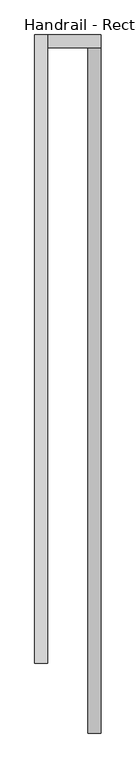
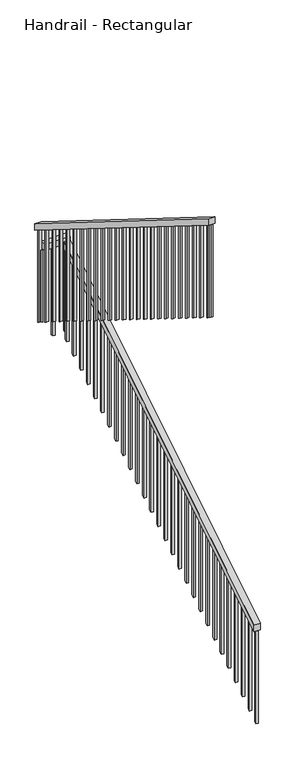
"""IFC4 building model written with IfcOpenShell, lengths in millimetres: railing geometry, Handrail - Rectangular."""

from ifc_helpers import new_model, si_unit, frame, origin, place, context, project, spatial, polyline, outline, extrude, source, transform, mapped, element, save


def handrail_rectangular_dc8e77f5(model_context):
    return source(origin(), model_context, "Body", "SweptSolid", [
        extrude(outline(polyline([(3822.2975872, 1028.7093152), (3822.2975872, 1088.5714286), (6565.4975872, 2798.6181818), (6565.4975872, 2738.7560685), (3822.2975872, 1028.7093152)])), frame((-10599.6769643, 0.0, 0.0), z_axis=(1.0, 0.0, 0.0), x_axis=(0.0, 1.0, 0.0)), (0.0, 0.0, 1.0), 50.8),
        extrude(outline(polyline([(-10548.8769643, 6616.2975872), (-10548.8769643, 6565.4975872), (-10763.3058351, 6565.4975872), (-10763.3058351, 6616.2975872), (-10548.8769643, 6616.2975872)])), frame((0.0, 0.0, 2779.4857143), z_axis=(0.0, 0.0, 1.0), x_axis=(1.0, 0.0, 0.0)), (0.0, 0.0, 1.0), 50.8),
        extrude(outline(polyline([(6616.2975872, 3004.4571429), (6616.2975872, 2944.5950295), (4101.6975872, 4512.1378867), (4101.6975872, 4572.0), (6616.2975872, 3004.4571429)])), frame((-10814.1058351, 0.0, 0.0), z_axis=(1.0, 0.0, 0.0), x_axis=(0.0, 1.0, 0.0)), (0.0, 0.0, 1.0), 50.8),
        extrude(outline(polyline([(4162.0225872, 4474.5326919), (4162.0225872, 3659.5762072), (4142.9725872, 3671.4515318), (4142.9725872, 4486.4080165), (4162.0225872, 4474.5326919)])), frame((-10798.2308351, 0.0, 0.0), z_axis=(1.0, 0.0, 0.0), x_axis=(0.0, 1.0, 0.0)), (0.0, 0.0, 1.0), 19.05),
        extrude(outline(polyline([(4263.6225872, 4411.1976269), (4263.6225872, 3596.2411422), (4244.5725872, 3608.1164669), (4244.5725872, 4423.0729516), (4263.6225872, 4411.1976269)])), frame((-10798.2308351, 0.0, 0.0), z_axis=(1.0, 0.0, 0.0), x_axis=(0.0, 1.0, 0.0)), (0.0, 0.0, 1.0), 19.05),
        extrude(outline(polyline([(4365.2225872, 4347.862562), (4365.2225872, 3532.9060773), (4346.1725872, 3544.781402), (4346.1725872, 4359.7378867), (4365.2225872, 4347.862562)])), frame((-10798.2308351, 0.0, 0.0), z_axis=(1.0, 0.0, 0.0), x_axis=(0.0, 1.0, 0.0)), (0.0, 0.0, 1.0), 19.05),
        extrude(outline(polyline([(4466.8225872, 4284.5274971), (4466.8225872, 3469.5710124), (4447.7725872, 3481.446337), (4447.7725872, 4296.4028217), (4466.8225872, 4284.5274971)])), frame((-10798.2308351, 0.0, 0.0), z_axis=(1.0, 0.0, 0.0), x_axis=(0.0, 1.0, 0.0)), (0.0, 0.0, 1.0), 19.05),
        extrude(outline(polyline([(4568.4225872, 4221.1924321), (4568.4225872, 3406.2359474), (4549.3725872, 3418.1112721), (4549.3725872, 4233.0677568), (4568.4225872, 4221.1924321)])), frame((-10798.2308351, 0.0, 0.0), z_axis=(1.0, 0.0, 0.0), x_axis=(0.0, 1.0, 0.0)), (0.0, 0.0, 1.0), 19.05),
        extrude(outline(polyline([(4670.0225872, 4157.8573672), (4670.0225872, 3342.9008825), (4650.9725872, 3354.7762072), (4650.9725872, 4169.7326919), (4670.0225872, 4157.8573672)])), frame((-10798.2308351, 0.0, 0.0), z_axis=(1.0, 0.0, 0.0), x_axis=(0.0, 1.0, 0.0)), (0.0, 0.0, 1.0), 19.05),
        extrude(outline(polyline([(4771.6225872, 4094.5223023), (4771.6225872, 3279.5658175), (4752.5725872, 3291.4411422), (4752.5725872, 4106.3976269), (4771.6225872, 4094.5223023)])), frame((-10798.2308351, 0.0, 0.0), z_axis=(1.0, 0.0, 0.0), x_axis=(0.0, 1.0, 0.0)), (0.0, 0.0, 1.0), 19.05),
        extrude(outline(polyline([(4873.2225872, 4031.1872373), (4873.2225872, 3216.2307526), (4854.1725872, 3228.1060773), (4854.1725872, 4043.062562), (4873.2225872, 4031.1872373)])), frame((-10798.2308351, 0.0, 0.0), z_axis=(1.0, 0.0, 0.0), x_axis=(0.0, 1.0, 0.0)), (0.0, 0.0, 1.0), 19.05),
        extrude(outline(polyline([(4974.8225872, 3967.8521724), (4974.8225872, 3152.8956877), (4955.7725872, 3164.7710124), (4955.7725872, 3979.7274971), (4974.8225872, 3967.8521724)])), frame((-10798.2308351, 0.0, 0.0), z_axis=(1.0, 0.0, 0.0), x_axis=(0.0, 1.0, 0.0)), (0.0, 0.0, 1.0), 19.05),
        extrude(outline(polyline([(5076.4225872, 3904.5171074), (5076.4225872, 3089.5606227), (5057.3725872, 3101.4359474), (5057.3725872, 3916.3924321), (5076.4225872, 3904.5171074)])), frame((-10798.2308351, 0.0, 0.0), z_axis=(1.0, 0.0, 0.0), x_axis=(0.0, 1.0, 0.0)), (0.0, 0.0, 1.0), 19.05),
        extrude(outline(polyline([(5178.0225872, 3841.1820425), (5178.0225872, 3026.2255578), (5158.9725872, 3038.1008825), (5158.9725872, 3853.0573672), (5178.0225872, 3841.1820425)])), frame((-10798.2308351, 0.0, 0.0), z_axis=(1.0, 0.0, 0.0), x_axis=(0.0, 1.0, 0.0)), (0.0, 0.0, 1.0), 19.05),
        extrude(outline(polyline([(5279.6225872, 3777.8469776), (5279.6225872, 2962.8904929), (5260.5725872, 2974.7658175), (5260.5725872, 3789.7223023), (5279.6225872, 3777.8469776)])), frame((-10798.2308351, 0.0, 0.0), z_axis=(1.0, 0.0, 0.0), x_axis=(0.0, 1.0, 0.0)), (0.0, 0.0, 1.0), 19.05),
        extrude(outline(polyline([(5381.2225872, 3714.5119126), (5381.2225872, 2899.5554279), (5362.1725872, 2911.4307526), (5362.1725872, 3726.3872373), (5381.2225872, 3714.5119126)])), frame((-10798.2308351, 0.0, 0.0), z_axis=(1.0, 0.0, 0.0), x_axis=(0.0, 1.0, 0.0)), (0.0, 0.0, 1.0), 19.05),
        extrude(outline(polyline([(5482.8225872, 3651.1768477), (5482.8225872, 2836.220363), (5463.7725872, 2848.0956877), (5463.7725872, 3663.0521724), (5482.8225872, 3651.1768477)])), frame((-10798.2308351, 0.0, 0.0), z_axis=(1.0, 0.0, 0.0), x_axis=(0.0, 1.0, 0.0)), (0.0, 0.0, 1.0), 19.05),
        extrude(outline(polyline([(5584.4225872, 3587.8417828), (5584.4225872, 2772.8852981), (5565.3725872, 2784.7606227), (5565.3725872, 3599.7171074), (5584.4225872, 3587.8417828)])), frame((-10798.2308351, 0.0, 0.0), z_axis=(1.0, 0.0, 0.0), x_axis=(0.0, 1.0, 0.0)), (0.0, 0.0, 1.0), 19.05),
        extrude(outline(polyline([(5686.0225872, 3524.5067178), (5686.0225872, 2709.5502331), (5666.9725872, 2721.4255578), (5666.9725872, 3536.3820425), (5686.0225872, 3524.5067178)])), frame((-10798.2308351, 0.0, 0.0), z_axis=(1.0, 0.0, 0.0), x_axis=(0.0, 1.0, 0.0)), (0.0, 0.0, 1.0), 19.05),
        extrude(outline(polyline([(5787.6225872, 3461.1716529), (5787.6225872, 2646.2151682), (5768.5725872, 2658.0904929), (5768.5725872, 3473.0469776), (5787.6225872, 3461.1716529)])), frame((-10798.2308351, 0.0, 0.0), z_axis=(1.0, 0.0, 0.0), x_axis=(0.0, 1.0, 0.0)), (0.0, 0.0, 1.0), 19.05),
        extrude(outline(polyline([(5889.2225872, 3397.836588), (5889.2225872, 2582.8801033), (5870.1725872, 2594.7554279), (5870.1725872, 3409.7119126), (5889.2225872, 3397.836588)])), frame((-10798.2308351, 0.0, 0.0), z_axis=(1.0, 0.0, 0.0), x_axis=(0.0, 1.0, 0.0)), (0.0, 0.0, 1.0), 19.05),
        extrude(outline(polyline([(5990.8225872, 3334.501523), (5990.8225872, 2519.5450383), (5971.7725872, 2531.420363), (5971.7725872, 3346.3768477), (5990.8225872, 3334.501523)])), frame((-10798.2308351, 0.0, 0.0), z_axis=(1.0, 0.0, 0.0), x_axis=(0.0, 1.0, 0.0)), (0.0, 0.0, 1.0), 19.05),
        extrude(outline(polyline([(6092.4225872, 3271.1664581), (6092.4225872, 2456.2099734), (6073.3725872, 2468.0852981), (6073.3725872, 3283.0417828), (6092.4225872, 3271.1664581)])), frame((-10798.2308351, 0.0, 0.0), z_axis=(1.0, 0.0, 0.0), x_axis=(0.0, 1.0, 0.0)), (0.0, 0.0, 1.0), 19.05),
        extrude(outline(polyline([(6194.0225872, 3207.8313932), (6194.0225872, 2392.8749085), (6174.9725872, 2404.7502331), (6174.9725872, 3219.7067178), (6194.0225872, 3207.8313932)])), frame((-10798.2308351, 0.0, 0.0), z_axis=(1.0, 0.0, 0.0), x_axis=(0.0, 1.0, 0.0)), (0.0, 0.0, 1.0), 19.05),
        extrude(outline(polyline([(6295.6225872, 3144.4963282), (6295.6225872, 2329.5398435), (6276.5725872, 2341.4151682), (6276.5725872, 3156.3716529), (6295.6225872, 3144.4963282)])), frame((-10798.2308351, 0.0, 0.0), z_axis=(1.0, 0.0, 0.0), x_axis=(0.0, 1.0, 0.0)), (0.0, 0.0, 1.0), 19.05),
        extrude(outline(polyline([(6397.2225872, 3081.1612633), (6397.2225872, 2266.2047786), (6378.1725872, 2278.0801033), (6378.1725872, 3093.036588), (6397.2225872, 3081.1612633)])), frame((-10798.2308351, 0.0, 0.0), z_axis=(1.0, 0.0, 0.0), x_axis=(0.0, 1.0, 0.0)), (0.0, 0.0, 1.0), 19.05),
        extrude(outline(polyline([(6498.8225872, 3017.8261984), (6498.8225872, 2202.8697137), (6479.7725872, 2214.7450383), (6479.7725872, 3029.701523), (6498.8225872, 3017.8261984)])), frame((-10798.2308351, 0.0, 0.0), z_axis=(1.0, 0.0, 0.0), x_axis=(0.0, 1.0, 0.0)), (0.0, 0.0, 1.0), 19.05),
        extrude(outline(polyline([(2779.4857143, -10787.0019643), (2151.4099734, -10787.0019643), (2139.5346487, -10767.9519643), (2779.4857143, -10767.9519643), (2779.4857143, -10787.0019643)])), frame((0.0, 6581.3725872, 0.0), z_axis=(0.0, 1.0, 0.0), x_axis=(0.0, 0.0, 1.0)), (0.0, 0.0, 1.0), 19.05),
        extrude(outline(polyline([(-10666.3519643, 6581.3725872), (-10685.4019643, 6581.3725872), (-10685.4019643, 6600.4225872), (-10666.3519643, 6600.4225872), (-10666.3519643, 6581.3725872)])), frame((0.0, 0.0, 1992.0857143), z_axis=(0.0, 0.0, 1.0), x_axis=(1.0, 0.0, 0.0)), (0.0, 0.0, 1.0), 787.4),
        extrude(outline(polyline([(6575.0225872, 2744.6937308), (6575.0225872, 1929.7372461), (6555.9725872, 1917.8619214), (6555.9725872, 2732.8184061), (6575.0225872, 2744.6937308)])), frame((-10583.8019643, 0.0, 0.0), z_axis=(1.0, 0.0, 0.0), x_axis=(0.0, 1.0, 0.0)), (0.0, 0.0, 1.0), 19.05),
        extrude(outline(polyline([(6473.4225872, 2681.3586659), (6473.4225872, 1866.4021812), (6454.3725872, 1854.5268565), (6454.3725872, 2669.4833412), (6473.4225872, 2681.3586659)])), frame((-10583.8019643, 0.0, 0.0), z_axis=(1.0, 0.0, 0.0), x_axis=(0.0, 1.0, 0.0)), (0.0, 0.0, 1.0), 19.05),
        extrude(outline(polyline([(6371.8225872, 2618.023601), (6371.8225872, 1803.0671162), (6352.7725872, 1791.1917916), (6352.7725872, 2606.1482763), (6371.8225872, 2618.023601)])), frame((-10583.8019643, 0.0, 0.0), z_axis=(1.0, 0.0, 0.0), x_axis=(0.0, 1.0, 0.0)), (0.0, 0.0, 1.0), 19.05),
        extrude(outline(polyline([(6270.2225872, 2554.688536), (6270.2225872, 1739.7320513), (6251.1725872, 1727.8567266), (6251.1725872, 2542.8132113), (6270.2225872, 2554.688536)])), frame((-10583.8019643, 0.0, 0.0), z_axis=(1.0, 0.0, 0.0), x_axis=(0.0, 1.0, 0.0)), (0.0, 0.0, 1.0), 19.05),
        extrude(outline(polyline([(6168.6225872, 2491.3534711), (6168.6225872, 1676.3969864), (6149.5725872, 1664.5216617), (6149.5725872, 2479.4781464), (6168.6225872, 2491.3534711)])), frame((-10583.8019643, 0.0, 0.0), z_axis=(1.0, 0.0, 0.0), x_axis=(0.0, 1.0, 0.0)), (0.0, 0.0, 1.0), 19.05),
        extrude(outline(polyline([(6067.0225872, 2428.0184061), (6067.0225872, 1613.0619214), (6047.9725872, 1601.1865968), (6047.9725872, 2416.1430815), (6067.0225872, 2428.0184061)])), frame((-10583.8019643, 0.0, 0.0), z_axis=(1.0, 0.0, 0.0), x_axis=(0.0, 1.0, 0.0)), (0.0, 0.0, 1.0), 19.05),
        extrude(outline(polyline([(5965.4225872, 2364.6833412), (5965.4225872, 1549.7268565), (5946.3725872, 1537.8515318), (5946.3725872, 2352.8080165), (5965.4225872, 2364.6833412)])), frame((-10583.8019643, 0.0, 0.0), z_axis=(1.0, 0.0, 0.0), x_axis=(0.0, 1.0, 0.0)), (0.0, 0.0, 1.0), 19.05),
        extrude(outline(polyline([(5863.8225872, 2301.3482763), (5863.8225872, 1486.3917916), (5844.7725872, 1474.5164669), (5844.7725872, 2289.4729516), (5863.8225872, 2301.3482763)])), frame((-10583.8019643, 0.0, 0.0), z_axis=(1.0, 0.0, 0.0), x_axis=(0.0, 1.0, 0.0)), (0.0, 0.0, 1.0), 19.05),
        extrude(outline(polyline([(5762.2225872, 2238.0132113), (5762.2225872, 1423.0567266), (5743.1725872, 1411.181402), (5743.1725872, 2226.1378867), (5762.2225872, 2238.0132113)])), frame((-10583.8019643, 0.0, 0.0), z_axis=(1.0, 0.0, 0.0), x_axis=(0.0, 1.0, 0.0)), (0.0, 0.0, 1.0), 19.05),
        extrude(outline(polyline([(5660.6225872, 2174.6781464), (5660.6225872, 1359.7216617), (5641.5725872, 1347.846337), (5641.5725872, 2162.8028217), (5660.6225872, 2174.6781464)])), frame((-10583.8019643, 0.0, 0.0), z_axis=(1.0, 0.0, 0.0), x_axis=(0.0, 1.0, 0.0)), (0.0, 0.0, 1.0), 19.05),
        extrude(outline(polyline([(5559.0225872, 2111.3430815), (5559.0225872, 1296.3865968), (5539.9725872, 1284.5112721), (5539.9725872, 2099.4677568), (5559.0225872, 2111.3430815)])), frame((-10583.8019643, 0.0, 0.0), z_axis=(1.0, 0.0, 0.0), x_axis=(0.0, 1.0, 0.0)), (0.0, 0.0, 1.0), 19.05),
        extrude(outline(polyline([(5457.4225872, 2048.0080165), (5457.4225872, 1233.0515318), (5438.3725872, 1221.1762072), (5438.3725872, 2036.1326919), (5457.4225872, 2048.0080165)])), frame((-10583.8019643, 0.0, 0.0), z_axis=(1.0, 0.0, 0.0), x_axis=(0.0, 1.0, 0.0)), (0.0, 0.0, 1.0), 19.05),
        extrude(outline(polyline([(5355.8225872, 1984.6729516), (5355.8225872, 1169.7164669), (5336.7725872, 1157.8411422), (5336.7725872, 1972.7976269), (5355.8225872, 1984.6729516)])), frame((-10583.8019643, 0.0, 0.0), z_axis=(1.0, 0.0, 0.0), x_axis=(0.0, 1.0, 0.0)), (0.0, 0.0, 1.0), 19.05),
        extrude(outline(polyline([(5254.2225872, 1921.3378867), (5254.2225872, 1106.381402), (5235.1725872, 1094.5060773), (5235.1725872, 1909.462562), (5254.2225872, 1921.3378867)])), frame((-10583.8019643, 0.0, 0.0), z_axis=(1.0, 0.0, 0.0), x_axis=(0.0, 1.0, 0.0)), (0.0, 0.0, 1.0), 19.05),
        extrude(outline(polyline([(5152.6225872, 1858.0028217), (5152.6225872, 1043.046337), (5133.5725872, 1031.1710124), (5133.5725872, 1846.1274971), (5152.6225872, 1858.0028217)])), frame((-10583.8019643, 0.0, 0.0), z_axis=(1.0, 0.0, 0.0), x_axis=(0.0, 1.0, 0.0)), (0.0, 0.0, 1.0), 19.05),
        extrude(outline(polyline([(5051.0225872, 1794.6677568), (5051.0225872, 979.7112721), (5031.9725872, 967.8359474), (5031.9725872, 1782.7924321), (5051.0225872, 1794.6677568)])), frame((-10583.8019643, 0.0, 0.0), z_axis=(1.0, 0.0, 0.0), x_axis=(0.0, 1.0, 0.0)), (0.0, 0.0, 1.0), 19.05),
        extrude(outline(polyline([(4949.4225872, 1731.3326919), (4949.4225872, 916.3762072), (4930.3725872, 904.5008825), (4930.3725872, 1719.4573672), (4949.4225872, 1731.3326919)])), frame((-10583.8019643, 0.0, 0.0), z_axis=(1.0, 0.0, 0.0), x_axis=(0.0, 1.0, 0.0)), (0.0, 0.0, 1.0), 19.05),
        extrude(outline(polyline([(4847.8225872, 1667.9976269), (4847.8225872, 853.0411422), (4828.7725872, 841.1658175), (4828.7725872, 1656.1223023), (4847.8225872, 1667.9976269)])), frame((-10583.8019643, 0.0, 0.0), z_axis=(1.0, 0.0, 0.0), x_axis=(0.0, 1.0, 0.0)), (0.0, 0.0, 1.0), 19.05),
        extrude(outline(polyline([(4746.2225872, 1604.662562), (4746.2225872, 789.7060773), (4727.1725872, 777.8307526), (4727.1725872, 1592.7872373), (4746.2225872, 1604.662562)])), frame((-10583.8019643, 0.0, 0.0), z_axis=(1.0, 0.0, 0.0), x_axis=(0.0, 1.0, 0.0)), (0.0, 0.0, 1.0), 19.05),
        extrude(outline(polyline([(4644.6225872, 1541.3274971), (4644.6225872, 726.3710124), (4625.5725872, 714.4956877), (4625.5725872, 1529.4521724), (4644.6225872, 1541.3274971)])), frame((-10583.8019643, 0.0, 0.0), z_axis=(1.0, 0.0, 0.0), x_axis=(0.0, 1.0, 0.0)), (0.0, 0.0, 1.0), 19.05),
        extrude(outline(polyline([(4543.0225872, 1477.9924321), (4543.0225872, 663.0359474), (4523.9725872, 651.1606227), (4523.9725872, 1466.1171074), (4543.0225872, 1477.9924321)])), frame((-10583.8019643, 0.0, 0.0), z_axis=(1.0, 0.0, 0.0), x_axis=(0.0, 1.0, 0.0)), (0.0, 0.0, 1.0), 19.05),
        extrude(outline(polyline([(4441.4225872, 1414.6573672), (4441.4225872, 599.7008825), (4422.3725872, 587.8255578), (4422.3725872, 1402.7820425), (4441.4225872, 1414.6573672)])), frame((-10583.8019643, 0.0, 0.0), z_axis=(1.0, 0.0, 0.0), x_axis=(0.0, 1.0, 0.0)), (0.0, 0.0, 1.0), 19.05),
        extrude(outline(polyline([(4339.8225872, 1351.3223023), (4339.8225872, 536.3658175), (4320.7725872, 524.4904929), (4320.7725872, 1339.4469776), (4339.8225872, 1351.3223023)])), frame((-10583.8019643, 0.0, 0.0), z_axis=(1.0, 0.0, 0.0), x_axis=(0.0, 1.0, 0.0)), (0.0, 0.0, 1.0), 19.05),
        extrude(outline(polyline([(4238.2225872, 1287.9872373), (4238.2225872, 473.0307526), (4219.1725872, 461.1554279), (4219.1725872, 1276.1119126), (4238.2225872, 1287.9872373)])), frame((-10583.8019643, 0.0, 0.0), z_axis=(1.0, 0.0, 0.0), x_axis=(0.0, 1.0, 0.0)), (0.0, 0.0, 1.0), 19.05),
        extrude(outline(polyline([(4136.6225872, 1224.6521724), (4136.6225872, 409.6956877), (4117.5725872, 397.820363), (4117.5725872, 1212.7768477), (4136.6225872, 1224.6521724)])), frame((-10583.8019643, 0.0, 0.0), z_axis=(1.0, 0.0, 0.0), x_axis=(0.0, 1.0, 0.0)), (0.0, 0.0, 1.0), 19.05),
        extrude(outline(polyline([(4035.0225872, 1161.3171074), (4035.0225872, 346.3606227), (4015.9725872, 334.4852981), (4015.9725872, 1149.4417828), (4035.0225872, 1161.3171074)])), frame((-10583.8019643, 0.0, 0.0), z_axis=(1.0, 0.0, 0.0), x_axis=(0.0, 1.0, 0.0)), (0.0, 0.0, 1.0), 19.05),
        extrude(outline(polyline([(3933.4225872, 1097.9820425), (3933.4225872, 283.0255578), (3914.3725872, 271.1502331), (3914.3725872, 1086.1067178), (3933.4225872, 1097.9820425)])), frame((-10583.8019643, 0.0, 0.0), z_axis=(1.0, 0.0, 0.0), x_axis=(0.0, 1.0, 0.0)), (0.0, 0.0, 1.0), 19.05),
        extrude(outline(polyline([(6600.4225872, 2954.4911334), (6600.4225872, 2139.5346487), (6581.3725872, 2151.4099734), (6581.3725872, 2966.3664581), (6600.4225872, 2954.4911334)])), frame((-10798.2308351, 0.0, 0.0), z_axis=(1.0, 0.0, 0.0), x_axis=(0.0, 1.0, 0.0)), (0.0, 0.0, 1.0), 19.05),
        extrude(outline(polyline([(-10564.7519643, 6581.3725872), (-10583.8019643, 6581.3725872), (-10583.8019643, 6600.4225872), (-10564.7519643, 6600.4225872), (-10564.7519643, 6581.3725872)])), frame((0.0, 0.0, 1992.0857143), z_axis=(0.0, 0.0, 1.0), x_axis=(1.0, 0.0, 0.0)), (0.0, 0.0, 1.0), 787.4),
        extrude(outline(polyline([(4120.7475872, 4500.262562), (4120.7475872, 3685.3060773), (4101.6975872, 3697.181402), (4101.6975872, 4512.1378867), (4120.7475872, 4500.262562)])), frame((-10798.2308351, 0.0, 0.0), z_axis=(1.0, 0.0, 0.0), x_axis=(0.0, 1.0, 0.0)), (0.0, 0.0, 1.0), 19.05),
        extrude(outline(polyline([(3841.3475872, 1040.5846399), (3841.3475872, 225.6281552), (3822.2975872, 213.7528305), (3822.2975872, 1028.7093152), (3841.3475872, 1040.5846399)])), frame((-10583.8019643, 0.0, 0.0), z_axis=(1.0, 0.0, 0.0), x_axis=(0.0, 1.0, 0.0)), (0.0, 0.0, 1.0), 19.05),
    ])


if __name__ == "__main__":
    model = new_model("IFC4")
    model_context = context("Model", 3, world=origin())
    ifc_project = project(units=[si_unit("LENGTHUNIT", "METRE", prefix="MILLI")], contexts=[model_context])
    site = spatial("IfcSite", under=ifc_project)
    building = spatial("IfcBuilding", under=site)
    placement = place(None, origin())
    handrail_rectangular_shape = handrail_rectangular_dc8e77f5(model_context)
    element("IfcRailing", 1, ObjectType="Handrail - Rectangular", at=placement, inside=building, context=model_context, shape_type="MappedRepresentation", body=[
        mapped(handrail_rectangular_shape, transform((0.0, 0.0, 0.0), x_axis=(1.0, 0.0, 0.0), y_axis=(0.0, 1.0, 0.0), z_axis=(0.0, 0.0, 1.0))),
    ])
    save(model, "model.ifc")
